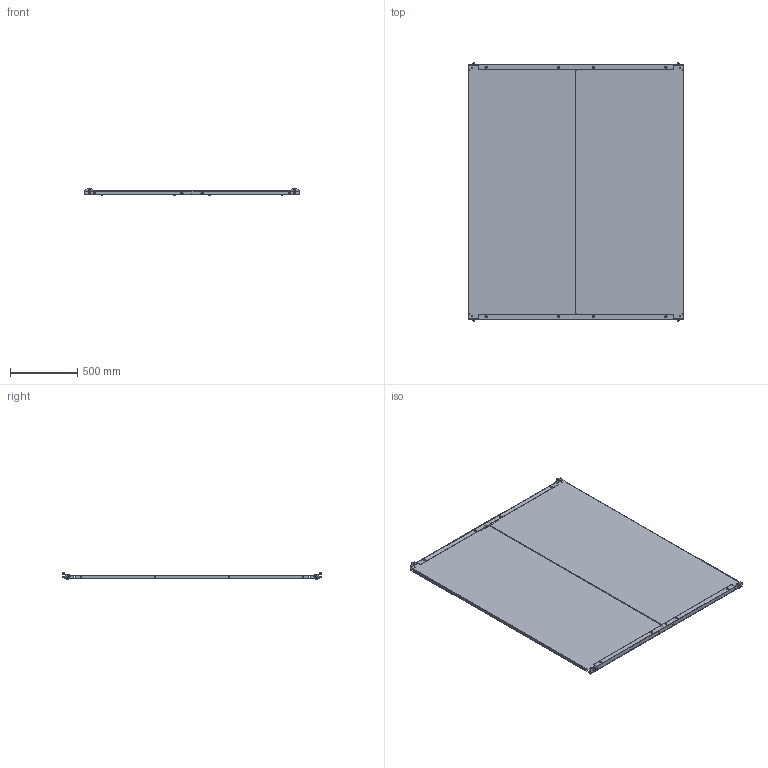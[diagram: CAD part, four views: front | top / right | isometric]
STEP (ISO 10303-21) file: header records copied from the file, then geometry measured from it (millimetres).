
FILE_DESCRIPTION(('Open CASCADE Model'),'2;1');
FILE_NAME('Open CASCADE Shape Model','2025-02-13T16:49:59',('Author'),( 'Open CASCADE'),'Open CASCADE STEP processor 7.8','Open CASCADE 7.8' ,'Unknown');
FILE_SCHEMA(('AUTOMOTIVE_DESIGN { 1 0 10303 214 1 1 1 1 }'));
Length unit declared in the file: millimetre
Products named in the file (14): Compound1; Compound2; Solid1; Solid2; Solid3; Solid4; Compound3; Solid5; Solid6; Solid7; Solid8; Solid9; Solid10; Solid11
Assembly tree (72 placements, depth 3):
  Compound1
    Compound2
      Solid1  x2
      Solid2  x2
      Solid3  x12
      Solid4  x12
    Compound3  x2
      Solid5
      Solid6
    Solid3  x4
    Solid7  x4
    Solid8  x8
    Solid9  x4
    Solid10  x8
    Solid11  x8
Bounding box: 1600 x 1926 x 55.3 mm (x, y, z)
Volume: 9390586.5 mm3; surface area: 7574274.6 mm2
Topology: 74 solids, 74 shells, 4332 faces, 11362 edges, 7154 vertices
Faces by surface type: plane 2088, cylinder 1212, cone 440, bspline 376, torus 200, sphere 16
Full cylindrical faces by diameter (mm): 5 x24, 6 x40, 6.5 x8, 6.8 x64, 8 x8, 8.3 x8, 8.4 x4, 9.5 x8, 10.1 x8, 10.44 x8, 10.5 x8, 11.57 x8, 12 x8, 12.65 x8, 16 x20, 16.55 x16
Entity records: 25786 total; most frequent: CARTESIAN_POINT 6836, ORIENTED_EDGE 3986, DIRECTION 3650, EDGE_CURVE 1993, VERTEX_POINT 1277, LINE 1276, VECTOR 1276, AXIS2_PLACEMENT_3D 1187
